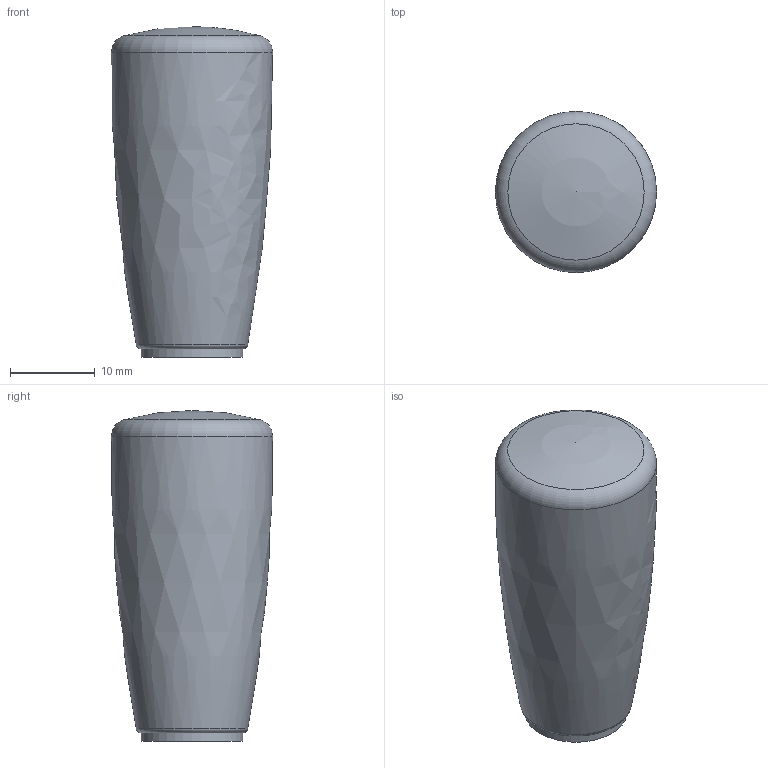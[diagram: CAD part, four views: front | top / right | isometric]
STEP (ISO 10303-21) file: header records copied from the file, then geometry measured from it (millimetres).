
FILE_DESCRIPTION( ('This file contains a STEP AP42 implementation' ,'as created by ZW3D STEP Interface translator.') ,'2;1' );
FILE_NAME( 'Galka owalna 19.39.stp' ,'26 813.114641', (''), ('ZWCAD Software Co.'), 'Version 1.0', 'ZW3D to STEP translator', '' );
FILE_SCHEMA(('AP242_MANAGED_MODEL_BASED_3D_ENGINEERING_MIM_LF { 1 0 10303 442 1 1 4 }'));
Length unit declared in the file: millimetre
Products named in the file (1): 0
Bounding box: 19 x 19 x 39 mm (x, y, z)
Volume: 8266.5 mm3; surface area: 2860.9 mm2
Topology: 1 solids, 1 shells, 11 faces, 21 edges, 12 vertices
Faces by surface type: cylinder 3, torus 2, plane 2, cone 2, bspline 1, sphere 1
Full cylindrical faces by diameter (mm): 5 x1, 8.7 x1, 12 x1
Entity records: 324 total; most frequent: CARTESIAN_POINT 69, DIRECTION 55, ORIENTED_EDGE 38, AXIS2_PLACEMENT_3D 25, EDGE_CURVE 19, CIRCLE 14, EDGE_LOOP 13, VERTEX_POINT 12
